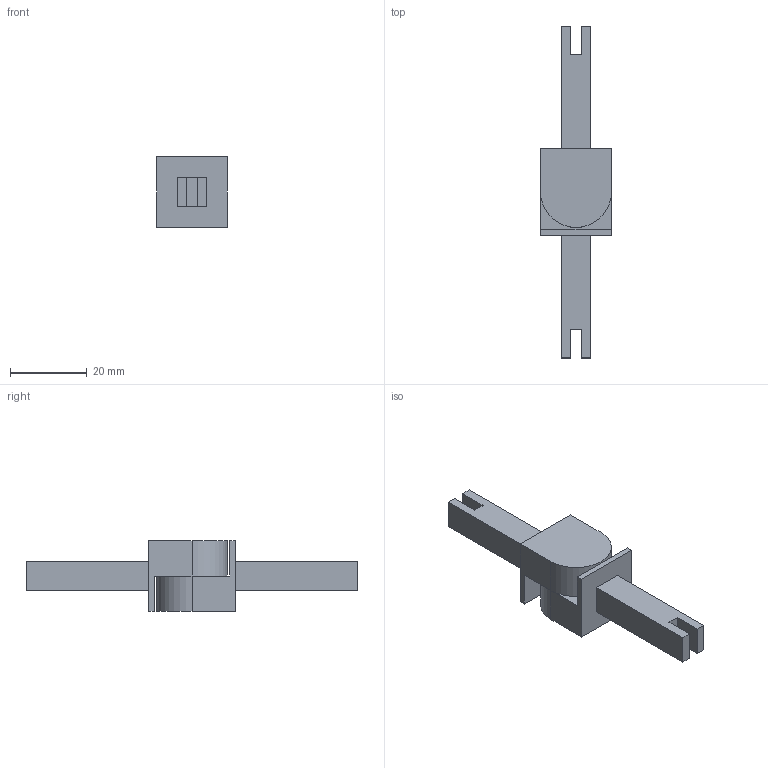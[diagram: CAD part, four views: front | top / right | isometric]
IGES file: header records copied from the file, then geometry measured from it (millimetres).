
Start section: Data from Parasolid IGES Translator 20.0.26, Copyright(c) 2006 Siemens P LM Software. All Rights Reserved.
Global section: file name: 9303946.igs; native system: By Siemens PLM Incorporated; preprocessor: XPlus GENERIC/IGES 20.0.26; author: Noname; organization: Noname; date: 20210824.165439; units: millimetre
Bounding box: 18.5 x 86.6 x 18.5 mm (x, y, z)
Surface area: 5776.1 mm2 (no closed solid volume)
Topology: 0 solids, 0 shells, 42 faces, 192 edges, 185 vertices
Faces by surface type: extrusion 36, revolution 6
